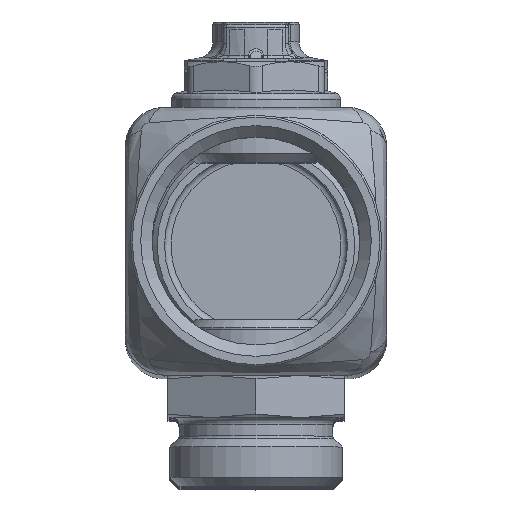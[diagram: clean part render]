
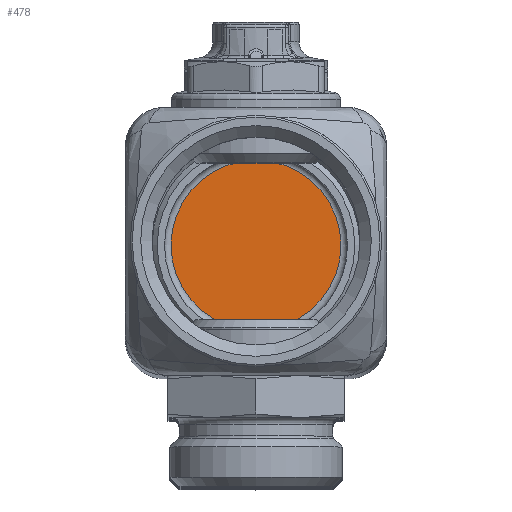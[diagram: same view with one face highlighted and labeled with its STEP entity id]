
A CAD part, top view. The second image highlights one B-rep face of the part: STEP entity #478.
In plain terms, the highlighted planar face has unit normal (0, 0, 1).
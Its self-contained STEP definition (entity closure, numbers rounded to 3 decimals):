
#478=ADVANCED_FACE('',(#6009),#6011,.T.);
#6009=FACE_BOUND('',#6010,.T.);
#6010=EDGE_LOOP('',(#14641));
#6011=PLANE('',#6012);
#6012=AXIS2_PLACEMENT_3D('',#6013,#6014,#6015);
#6013=CARTESIAN_POINT('',(0.,0.,-184.75));
#6014=DIRECTION('',(0.,0.,1.));
#6015=DIRECTION('',(1.,0.,0.));
#14641=ORIENTED_EDGE('',*,*,#17714,.T.);
#17714=EDGE_CURVE('',#20379,#20379,#20380,.T.);
#20379=VERTEX_POINT('',#27212);
#20380=CIRCLE('',#27213,13.);
#27212=CARTESIAN_POINT('',(13.,0.,-184.75));
#27213=AXIS2_PLACEMENT_3D('',#27214,#27215,#27216);
#27214=CARTESIAN_POINT('',(0.,0.,-184.75));
#27215=DIRECTION('',(0.,0.,1.));
#27216=DIRECTION('',(1.,0.,0.));
